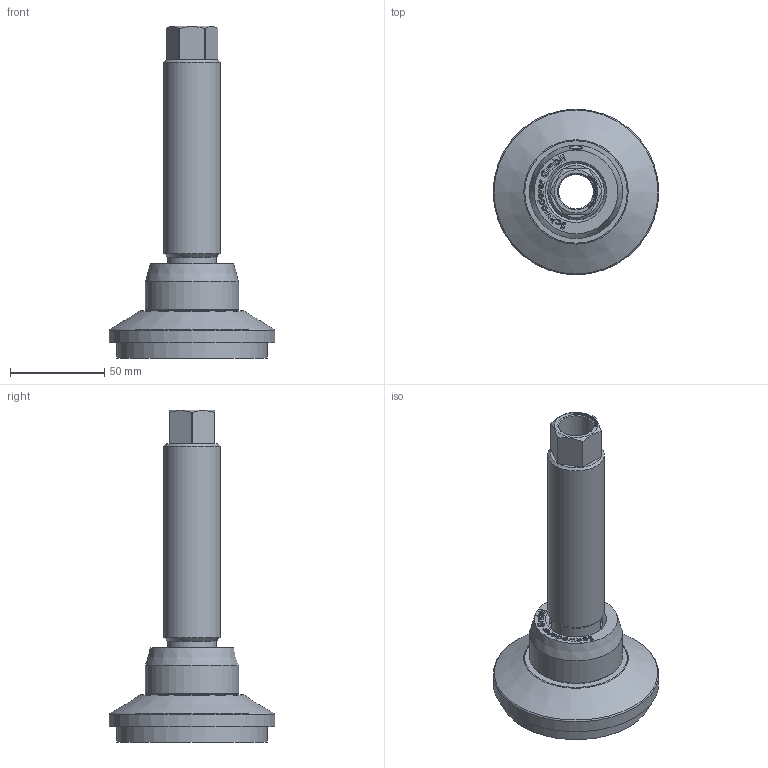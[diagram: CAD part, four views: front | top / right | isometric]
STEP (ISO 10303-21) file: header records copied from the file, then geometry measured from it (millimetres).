
FILE_DESCRIPTION(/* description */ ('JCM 80C - M30 - S6'),/* implementation_level */ '2;1');
FILE_NAME(/* name */ 'P:\CAD ab 2015\STP - Internetseite\JCMHD\JCMHD 80C - S12 - HSD145.stp',/* time_stamp */ '2021-10-01T08:47:05+02:00',/* author */ ('T. Rey'),/* organization */ ('Schwaderer GmbH Robert-Bosch-Str. 10 71563 Affalterbach'),/* preprocessor_version */ 'ST-DEVELOPER v18.1',/* originating_system */ 'Autodesk Inventor LT',/* authorisation */ '');
FILE_SCHEMA (('CONFIG_CONTROL_DESIGN'));
Length unit declared in the file: millimetre
Products named in the file (1): JCMHD 80C - S - HSD145
Bounding box: 88 x 88 x 176.4 mm (x, y, z)
Volume: 198580.2 mm3; surface area: 61356.1 mm2
Topology: 4 solids, 4 shells, 479 faces, 1300 edges, 869 vertices
Faces by surface type: plane 243, bspline 192, cylinder 23, cone 17, torus 3, sphere 1
Full cylindrical faces by diameter (mm): 5 x1, 18.5 x2, 25 x1, 26 x1, 26.5 x1, 27.5 x1, 28.5 x2, 30 x2, 31 x1, 49.5 x1, 80 x2, 88 x1
Entity records: 16602 total; most frequent: CARTESIAN_POINT 5621, ORIENTED_EDGE 2600, DIRECTION 1593, EDGE_CURVE 1300, VERTEX_POINT 869, LINE 781, VECTOR 781, EDGE_LOOP 529
